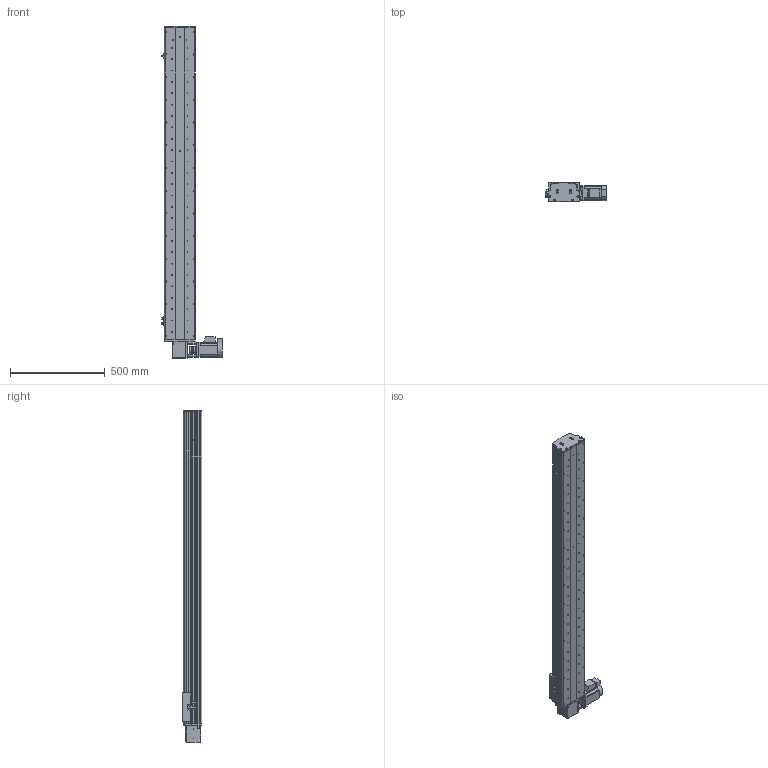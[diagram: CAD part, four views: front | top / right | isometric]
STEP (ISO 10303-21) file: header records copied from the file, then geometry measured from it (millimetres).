
FILE_DESCRIPTION (( 'STEP AP214' ), '1' );
FILE_NAME ('KSD165B-S1400-MRT-CM .STEP', '2017-08-14T06:10:23', ( '微软用户' ), ( '微软中国' ), 'SwSTEP 2.0', 'SolidWorks 2014', '' );
FILE_SCHEMA (( 'AUTOMOTIVE_DESIGN' ));
Length unit declared in the file: millimetre
Products named in the file (16): KSD165模组-同步带滑动座-最新版; KSD165B-S1400-MRT-CM ; KSD165模组-同步带防尘盖1-1400行程; KSD165模组同步带底板-1400行程; 拸秶雄ん750W侜督萇儂; 165宽安装板同步带带电机座750W; 165宽马达安装板同步带右; C39ㄜ1419WP; U倰嫖萇假蚾璃; U倰嫖萇EEㄜSX672; 覜茼え68遵圉猾敕; KSD165模组-同步带-防撞垫2; KSD165模组同步带-防撞垫1; KSD165耀郪-ヶ傷啣1-肮祭湍; KSD165模组-后端板1-同步带; 130宽马达安装板1-带电机座750W（1）
Assembly tree (19 placements, depth 2):
  KSD165B-S1400-MRT-CM 
    KSD165模组-同步带滑动座-最新版
    130宽马达安装板1-带电机座750W（1）
    KSD165模组-后端板1-同步带
    KSD165耀郪-ヶ傷啣1-肮祭湍
    KSD165模组同步带-防撞垫1
    KSD165模组-同步带-防撞垫2
    覜茼え68遵圉猾敕
    U倰嫖萇EEㄜSX672  x3
    U倰嫖萇假蚾璃  x3
    C39ㄜ1419WP
    165宽马达安装板同步带右
    165宽安装板同步带带电机座750W
    拸秶雄ん750W侜督萇儂
    KSD165模组同步带底板-1400行程
    KSD165模组-同步带防尘盖1-1400行程
Bounding box: 321.2 x 104 x 1754 mm (x, y, z)
Volume: 9692596.6 mm3; surface area: 2205130.5 mm2
Topology: 20 solids, 20 shells, 1568 faces, 4380 edges, 2841 vertices
Faces by surface type: cylinder 887, plane 587, cone 94
Entity records: 50703 total; most frequent: CARTESIAN_POINT 10613, DIRECTION 7846, ORIENTED_EDGE 7412, EDGE_CURVE 3706, AXIS2_PLACEMENT_3D 3002, VERTEX_POINT 2433, VECTOR 1842, LINE 1842
